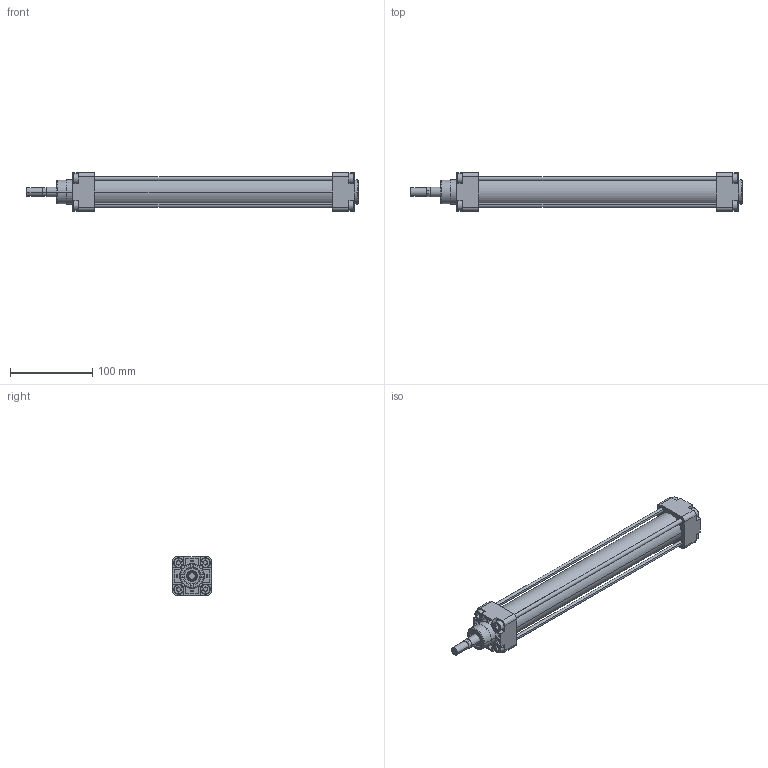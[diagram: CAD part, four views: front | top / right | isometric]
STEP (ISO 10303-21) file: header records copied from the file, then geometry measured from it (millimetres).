
FILE_DESCRIPTION(('CATIA V5 STEP Exchange'),'2;1');
FILE_NAME('D:\stp file for catalog\PNC\32\PNC 32-12-250.stp','2015-10-12T13:02:05+00:00',('none'),('none'),'Version 5-6 Release 2012','CATIA V5 STEP AP203','none');
FILE_SCHEMA(('CONFIG_CONTROL_DESIGN'));
Length unit declared in the file: millimetre
Products named in the file (1): PNC 32-12-250-00
Assembly tree (2 placements, depth 2):
  PNC 32-12-250-00
    #58
    #15737
Bounding box: 402.5 x 47 x 47 mm (x, y, z)
Volume: 260868.1 mm3; surface area: 138486.1 mm2
Topology: 6 solids, 6 shells, 587 faces, 1488 edges, 974 vertices
Faces by surface type: plane 359, cylinder 166, torus 26, cone 20, extrusion 16
Entity records: 16261 total; most frequent: CARTESIAN_POINT 3407, ORIENTED_EDGE 2976, DIRECTION 1948, EDGE_CURVE 1488, VERTEX_POINT 974, VECTOR 896, LINE 880, AXIS2_PLACEMENT_3D 773
